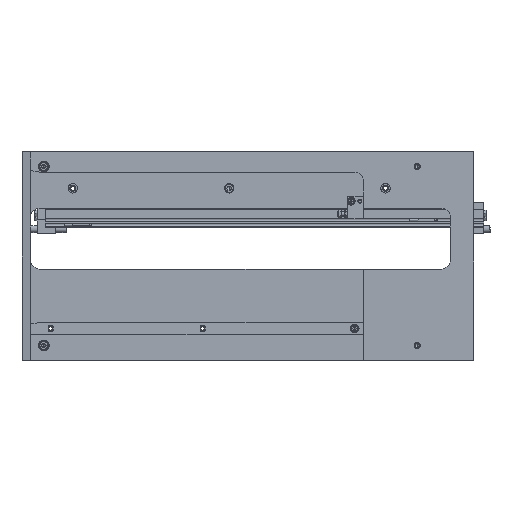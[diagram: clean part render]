
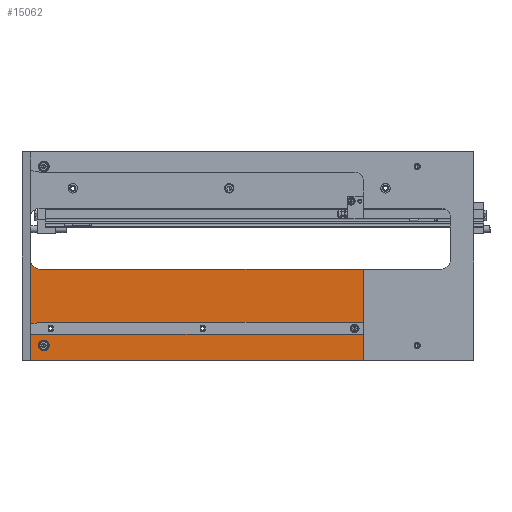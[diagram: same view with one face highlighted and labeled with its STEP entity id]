
A CAD part, top view. The second image highlights one B-rep face of the part: STEP entity #15062.
In plain terms, the highlighted planar face has unit normal (0, 0, 1) as drawn and (0, 1, 0) by its records, which use the part's own axes.
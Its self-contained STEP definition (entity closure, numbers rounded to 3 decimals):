
#33 = DIRECTION ( 'NONE',  ( 0., 0., 1. ) ) ;
#245 = EDGE_CURVE ( 'NONE', #5364, #3885, #3544, .T. ) ;
#260 = AXIS2_PLACEMENT_3D ( 'NONE', #6881, #18716, #10269 ) ;
#396 = DIRECTION ( 'NONE',  ( 0., 1., 0. ) ) ;
#555 = CARTESIAN_POINT ( 'NONE',  ( 10., 11., 0. ) ) ;
#671 = CARTESIAN_POINT ( 'NONE',  ( 25., 11., -17. ) ) ;
#680 = ORIENTED_EDGE ( 'NONE', *, *, #6659, .T. ) ;
#762 = CARTESIAN_POINT ( 'NONE',  ( 10., 11., -115. ) ) ;
#875 = FACE_BOUND ( 'NONE', #2967, .T. ) ;
#956 = DIRECTION ( 'NONE',  ( 0., 1., 0. ) ) ;
#1052 = CARTESIAN_POINT ( 'NONE',  ( 33., 11., -34.4 ) ) ;
#1093 = VERTEX_POINT ( 'NONE', #1193 ) ;
#1139 = CIRCLE ( 'NONE', #4547, 2.1 ) ;
#1193 = CARTESIAN_POINT ( 'NONE',  ( 25., 11., -13.5 ) ) ;
#1488 = CARTESIAN_POINT ( 'NONE',  ( 33., 11., -38.6 ) ) ;
#2000 = CIRCLE ( 'NONE', #20929, 2.1 ) ;
#2003 = DIRECTION ( 'NONE',  ( 0., 1., 0. ) ) ;
#2128 = DIRECTION ( 'NONE',  ( 0., 0., 1. ) ) ;
#2152 = CARTESIAN_POINT ( 'NONE',  ( 20., 11., -115. ) ) ;
#2433 = CIRCLE ( 'NONE', #4935, 3.5 ) ;
#2520 = DIRECTION ( 'NONE',  ( 0., 0., 1. ) ) ;
#2967 = EDGE_LOOP ( 'NONE', ( #7713, #8974 ) ) ;
#3298 = DIRECTION ( 'NONE',  ( 0., 1., 0. ) ) ;
#3544 = LINE ( 'NONE', #555, #13669 ) ;
#3592 = VECTOR ( 'NONE', #6515, 1000. ) ;
#3814 = AXIS2_PLACEMENT_3D ( 'NONE', #20834, #396, #2128 ) ;
#3849 = ORIENTED_EDGE ( 'NONE', *, *, #4767, .T. ) ;
#3885 = VERTEX_POINT ( 'NONE', #9813 ) ;
#3919 = EDGE_LOOP ( 'NONE', ( #12357, #9503, #12859, #680, #3849 ) ) ;
#3968 = ORIENTED_EDGE ( 'NONE', *, *, #4389, .F. ) ;
#4090 = EDGE_CURVE ( 'NONE', #15843, #17976, #2000, .T. ) ;
#4255 = CARTESIAN_POINT ( 'NONE',  ( 0., 11., -105. ) ) ;
#4287 = ORIENTED_EDGE ( 'NONE', *, *, #6568, .F. ) ;
#4311 = VERTEX_POINT ( 'NONE', #14608 ) ;
#4389 = EDGE_CURVE ( 'NONE', #17976, #15843, #1139, .T. ) ;
#4412 = DIRECTION ( 'NONE',  ( 0., 0., -1. ) ) ;
#4415 = LINE ( 'NONE', #4255, #3592 ) ;
#4520 = CARTESIAN_POINT ( 'NONE',  ( 383., 11., -36.5 ) ) ;
#4547 = AXIS2_PLACEMENT_3D ( 'NONE', #4520, #11409, #18293 ) ;
#4654 = FACE_BOUND ( 'NONE', #7621, .T. ) ;
#4767 = EDGE_CURVE ( 'NONE', #13699, #17884, #17628, .T. ) ;
#4935 = AXIS2_PLACEMENT_3D ( 'NONE', #671, #15879, #7442 ) ;
#5292 = CIRCLE ( 'NONE', #6042, 2.1 ) ;
#5293 = DIRECTION ( 'NONE',  ( 0., 0., 1. ) ) ;
#5364 = VERTEX_POINT ( 'NONE', #762 ) ;
#5897 = CIRCLE ( 'NONE', #3814, 2.1 ) ;
#5916 = CARTESIAN_POINT ( 'NONE',  ( 0., 11., 0. ) ) ;
#5958 = CARTESIAN_POINT ( 'NONE',  ( 383., 11., -34.4 ) ) ;
#6042 = AXIS2_PLACEMENT_3D ( 'NONE', #14603, #956, #2520 ) ;
#6076 = PLANE ( 'NONE',  #18143 ) ;
#6187 = LINE ( 'NONE', #5916, #10927 ) ;
#6515 = DIRECTION ( 'NONE',  ( 1., 0., 0. ) ) ;
#6568 = EDGE_CURVE ( 'NONE', #10120, #8463, #5897, .T. ) ;
#6659 = EDGE_CURVE ( 'NONE', #3885, #13699, #6187, .T. ) ;
#6737 = AXIS2_PLACEMENT_3D ( 'NONE', #7618, #18902, #6845 ) ;
#6845 = DIRECTION ( 'NONE',  ( 0., 0., 1. ) ) ;
#6881 = CARTESIAN_POINT ( 'NONE',  ( 208., 11., -36.5 ) ) ;
#7129 = DIRECTION ( 'NONE',  ( 0., 0., 1. ) ) ;
#7442 = DIRECTION ( 'NONE',  ( 0., 0., 1. ) ) ;
#7618 = CARTESIAN_POINT ( 'NONE',  ( 25., 11., -17. ) ) ;
#7621 = EDGE_LOOP ( 'NONE', ( #4287, #11788 ) ) ;
#7713 = ORIENTED_EDGE ( 'NONE', *, *, #11960, .F. ) ;
#8364 = ORIENTED_EDGE ( 'NONE', *, *, #4090, .F. ) ;
#8443 = EDGE_CURVE ( 'NONE', #9010, #12823, #9800, .T. ) ;
#8463 = VERTEX_POINT ( 'NONE', #22075 ) ;
#8779 = CIRCLE ( 'NONE', #12223, 10. ) ;
#8974 = ORIENTED_EDGE ( 'NONE', *, *, #15855, .F. ) ;
#9010 = VERTEX_POINT ( 'NONE', #1488 ) ;
#9321 = EDGE_LOOP ( 'NONE', ( #10294, #20725 ) ) ;
#9470 = EDGE_CURVE ( 'NONE', #17519, #17884, #4415, .T. ) ;
#9503 = ORIENTED_EDGE ( 'NONE', *, *, #18119, .T. ) ;
#9700 = EDGE_CURVE ( 'NONE', #8463, #10120, #20862, .T. ) ;
#9800 = CIRCLE ( 'NONE', #17955, 2.1 ) ;
#9813 = CARTESIAN_POINT ( 'NONE',  ( 10., 11., 0. ) ) ;
#9957 = CARTESIAN_POINT ( 'NONE',  ( 208., 11., -34.4 ) ) ;
#10067 = CARTESIAN_POINT ( 'NONE',  ( 393., 11., 0. ) ) ;
#10120 = VERTEX_POINT ( 'NONE', #9957 ) ;
#10269 = DIRECTION ( 'NONE',  ( 0., 0., 1. ) ) ;
#10294 = ORIENTED_EDGE ( 'NONE', *, *, #13389, .F. ) ;
#10927 = VECTOR ( 'NONE', #14585, 1000. ) ;
#11176 = CIRCLE ( 'NONE', #6737, 3.5 ) ;
#11252 = CARTESIAN_POINT ( 'NONE',  ( 0., 11., -240. ) ) ;
#11409 = DIRECTION ( 'NONE',  ( 0., 1., 0. ) ) ;
#11788 = ORIENTED_EDGE ( 'NONE', *, *, #9700, .F. ) ;
#11812 = FACE_BOUND ( 'NONE', #19324, .T. ) ;
#11960 = EDGE_CURVE ( 'NONE', #1093, #4311, #11176, .T. ) ;
#12156 = DIRECTION ( 'NONE',  ( 0., 0., 1. ) ) ;
#12223 = AXIS2_PLACEMENT_3D ( 'NONE', #2152, #19036, #12156 ) ;
#12357 = ORIENTED_EDGE ( 'NONE', *, *, #9470, .F. ) ;
#12773 = CARTESIAN_POINT ( 'NONE',  ( 20., 11., -105. ) ) ;
#12823 = VERTEX_POINT ( 'NONE', #1052 ) ;
#12859 = ORIENTED_EDGE ( 'NONE', *, *, #245, .T. ) ;
#13389 = EDGE_CURVE ( 'NONE', #12823, #9010, #5292, .T. ) ;
#13669 = VECTOR ( 'NONE', #33, 1000. ) ;
#13699 = VERTEX_POINT ( 'NONE', #10067 ) ;
#13939 = FACE_BOUND ( 'NONE', #9321, .T. ) ;
#14585 = DIRECTION ( 'NONE',  ( 1., 0., 0. ) ) ;
#14603 = CARTESIAN_POINT ( 'NONE',  ( 33., 11., -36.5 ) ) ;
#14608 = CARTESIAN_POINT ( 'NONE',  ( 25., 11., -20.5 ) ) ;
#15062 = ADVANCED_FACE ( 'NONE', ( #13939, #4654, #11812, #875, #21939 ), #6076, .T. ) ;
#15229 = CARTESIAN_POINT ( 'NONE',  ( 33., 11., -36.5 ) ) ;
#15843 = VERTEX_POINT ( 'NONE', #5958 ) ;
#15855 = EDGE_CURVE ( 'NONE', #4311, #1093, #2433, .T. ) ;
#15879 = DIRECTION ( 'NONE',  ( 0., 1., 0. ) ) ;
#17347 = CARTESIAN_POINT ( 'NONE',  ( 383., 11., -36.5 ) ) ;
#17519 = VERTEX_POINT ( 'NONE', #12773 ) ;
#17628 = LINE ( 'NONE', #17779, #20842 ) ;
#17779 = CARTESIAN_POINT ( 'NONE',  ( 393., 11., 0. ) ) ;
#17859 = DIRECTION ( 'NONE',  ( 0., 1., 0. ) ) ;
#17868 = CARTESIAN_POINT ( 'NONE',  ( 383., 11., -38.6 ) ) ;
#17884 = VERTEX_POINT ( 'NONE', #19254 ) ;
#17955 = AXIS2_PLACEMENT_3D ( 'NONE', #15229, #3298, #5293 ) ;
#17976 = VERTEX_POINT ( 'NONE', #17868 ) ;
#18119 = EDGE_CURVE ( 'NONE', #17519, #5364, #8779, .T. ) ;
#18143 = AXIS2_PLACEMENT_3D ( 'NONE', #11252, #17859, #21445 ) ;
#18293 = DIRECTION ( 'NONE',  ( 0., 0., 1. ) ) ;
#18716 = DIRECTION ( 'NONE',  ( 0., 1., 0. ) ) ;
#18902 = DIRECTION ( 'NONE',  ( 0., 1., 0. ) ) ;
#19036 = DIRECTION ( 'NONE',  ( 0., -1., 0. ) ) ;
#19254 = CARTESIAN_POINT ( 'NONE',  ( 393., 11., -105. ) ) ;
#19324 = EDGE_LOOP ( 'NONE', ( #8364, #3968 ) ) ;
#20725 = ORIENTED_EDGE ( 'NONE', *, *, #8443, .F. ) ;
#20834 = CARTESIAN_POINT ( 'NONE',  ( 208., 11., -36.5 ) ) ;
#20842 = VECTOR ( 'NONE', #4412, 1000. ) ;
#20862 = CIRCLE ( 'NONE', #260, 2.1 ) ;
#20929 = AXIS2_PLACEMENT_3D ( 'NONE', #17347, #2003, #7129 ) ;
#21445 = DIRECTION ( 'NONE',  ( 0., 0., 1. ) ) ;
#21939 = FACE_OUTER_BOUND ( 'NONE', #3919, .T. ) ;
#22075 = CARTESIAN_POINT ( 'NONE',  ( 208., 11., -38.6 ) ) ;
